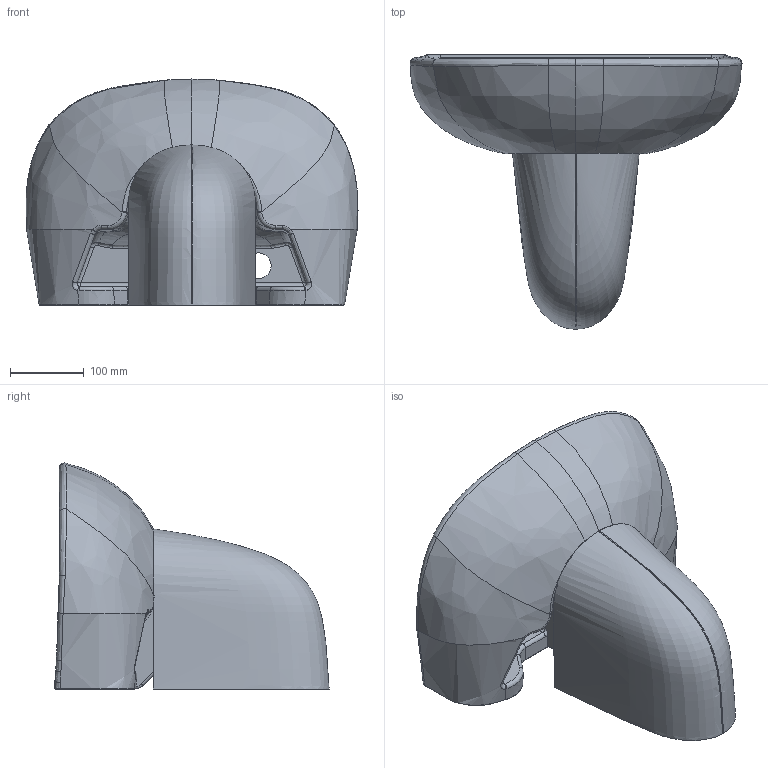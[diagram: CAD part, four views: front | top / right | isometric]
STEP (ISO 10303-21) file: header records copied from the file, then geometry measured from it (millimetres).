
FILE_DESCRIPTION (( 'STEP AP203' ), '1' );
FILE_NAME ('tp030.STEP', '2022-04-28T06:50:18', ( '' ), ( '' ), 'SwSTEP 2.0', 'SolidWorks 2021', '' );
FILE_SCHEMA (( 'CONFIG_CONTROL_DESIGN' ));
Products named in the file (1): tp030
Bounding box: 451.36 x 372.8 x 307.25 mm (x, y, z)
Volume: 6868907.6 mm3; surface area: 733327.6 mm2
Topology: 3 solids, 4 shells, 688 faces, 1708 edges, 1006 vertices
Faces by surface type: bspline 456, cylinder 101, plane 71, torus 45, sphere 13, cone 2
Entity records: 113532 total; most frequent: CARTESIAN_POINT 100840, ORIENTED_EDGE 3370, EDGE_CURVE 1685, DIRECTION 1515, B_SPLINE_CURVE_WITH_KNOTS 1006, VERTEX_POINT 1006, EDGE_LOOP 699, ADVANCED_FACE 688
